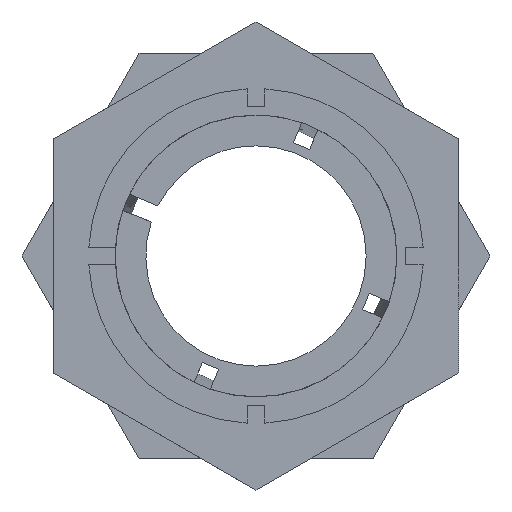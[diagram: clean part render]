
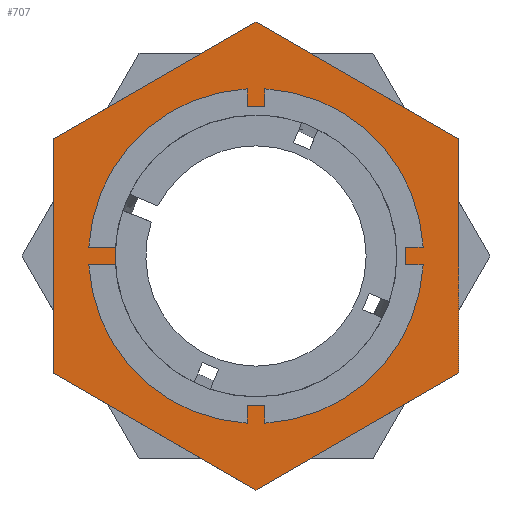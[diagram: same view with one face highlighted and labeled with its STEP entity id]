
A CAD part, left-side view. The second image highlights one B-rep face of the part: STEP entity #707.
In plain terms, the highlighted planar face has unit normal (-1, 0, 0).
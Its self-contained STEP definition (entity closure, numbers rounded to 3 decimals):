
#16 = DIRECTION ( 'NONE',  ( 0., 0., 1. ) ) ;
#17 = DIRECTION ( 'NONE',  ( -1., 0., 0. ) ) ;
#18 = CARTESIAN_POINT ( 'NONE',  ( 20.52, 0., 0. ) ) ;
#23 = CARTESIAN_POINT ( 'NONE',  ( 20.52, 0., 0. ) ) ;
#49 = DIRECTION ( 'NONE',  ( 0., -0.866, -0.5 ) ) ;
#71 = CARTESIAN_POINT ( 'NONE',  ( 20.52, 0., -26.558 ) ) ;
#181 = FACE_BOUND ( 'NONE', #1412, .T. ) ;
#186 = FACE_OUTER_BOUND ( 'NONE', #1385, .T. ) ;
#320 = VECTOR ( 'NONE', #49, 1000. ) ;
#331 = LINE ( 'NONE', #2377, #368 ) ;
#340 = LINE ( 'NONE', #71, #320 ) ;
#366 = CIRCLE ( 'NONE', #2284, 15.501 ) ;
#368 = VECTOR ( 'NONE', #2385, 1000. ) ;
#370 = LINE ( 'NONE', #2424, #371 ) ;
#371 = VECTOR ( 'NONE', #2365, 1000. ) ;
#372 = LINE ( 'NONE', #2421, #373 ) ;
#373 = VECTOR ( 'NONE', #2375, 1000. ) ;
#374 = LINE ( 'NONE', #2363, #375 ) ;
#375 = VECTOR ( 'NONE', #2381, 1000. ) ;
#378 = CIRCLE ( 'NONE', #2295, 15.501 ) ;
#379 = LINE ( 'NONE', #2392, #380 ) ;
#380 = VECTOR ( 'NONE', #2407, 1000. ) ;
#707 = ADVANCED_FACE ( 'NONE', ( #181, #186 ), #1664, .F. ) ;
#753 = ORIENTED_EDGE ( 'NONE', *, *, #1045, .T. ) ;
#770 = ORIENTED_EDGE ( 'NONE', *, *, #1044, .F. ) ;
#775 = ORIENTED_EDGE ( 'NONE', *, *, #1046, .T. ) ;
#794 = ORIENTED_EDGE ( 'NONE', *, *, #1043, .T. ) ;
#796 = ORIENTED_EDGE ( 'NONE', *, *, #1025, .T. ) ;
#804 = ORIENTED_EDGE ( 'NONE', *, *, #1041, .T. ) ;
#833 = ORIENTED_EDGE ( 'NONE', *, *, #1042, .T. ) ;
#854 = ORIENTED_EDGE ( 'NONE', *, *, #1037, .F. ) ;
#1025 = EDGE_CURVE ( 'NONE', #1812, #1810, #340, .T. ) ;
#1037 = EDGE_CURVE ( 'NONE', #1823, #1822, #366, .T. ) ;
#1041 = EDGE_CURVE ( 'NONE', #1816, #1812, #370, .T. ) ;
#1042 = EDGE_CURVE ( 'NONE', #1809, #1808, #372, .T. ) ;
#1043 = EDGE_CURVE ( 'NONE', #1810, #1809, #374, .T. ) ;
#1044 = EDGE_CURVE ( 'NONE', #1822, #1823, #378, .T. ) ;
#1045 = EDGE_CURVE ( 'NONE', #1817, #1816, #331, .T. ) ;
#1046 = EDGE_CURVE ( 'NONE', #1808, #1817, #379, .T. ) ;
#1070 = AXIS2_PLACEMENT_3D ( 'NONE', #1667, #1662, #1684 ) ;
#1385 = EDGE_LOOP ( 'NONE', ( #753, #804, #796, #794, #833, #775 ) ) ;
#1412 = EDGE_LOOP ( 'NONE', ( #770, #854 ) ) ;
#1662 = DIRECTION ( 'NONE',  ( 1., 0., 0. ) ) ;
#1664 = PLANE ( 'NONE',  #1070 ) ;
#1667 = CARTESIAN_POINT ( 'NONE',  ( 20.52, 50., 0. ) ) ;
#1684 = DIRECTION ( 'NONE',  ( 0., 0., -1. ) ) ;
#1808 = VERTEX_POINT ( 'NONE', #2169 ) ;
#1809 = VERTEX_POINT ( 'NONE', #2170 ) ;
#1810 = VERTEX_POINT ( 'NONE', #2171 ) ;
#1812 = VERTEX_POINT ( 'NONE', #2172 ) ;
#1816 = VERTEX_POINT ( 'NONE', #2173 ) ;
#1817 = VERTEX_POINT ( 'NONE', #2174 ) ;
#1822 = VERTEX_POINT ( 'NONE', #2175 ) ;
#1823 = VERTEX_POINT ( 'NONE', #2176 ) ;
#2169 = CARTESIAN_POINT ( 'NONE',  ( 20.52, -23., 13.279 ) ) ;
#2170 = CARTESIAN_POINT ( 'NONE',  ( 20.52, -23., -13.279 ) ) ;
#2171 = CARTESIAN_POINT ( 'NONE',  ( 20.52, 0., -26.558 ) ) ;
#2172 = CARTESIAN_POINT ( 'NONE',  ( 20.52, 23., -13.279 ) ) ;
#2173 = CARTESIAN_POINT ( 'NONE',  ( 20.52, 23., 13.279 ) ) ;
#2174 = CARTESIAN_POINT ( 'NONE',  ( 20.52, 0., 26.558 ) ) ;
#2175 = CARTESIAN_POINT ( 'NONE',  ( 20.52, 0., 15.501 ) ) ;
#2176 = CARTESIAN_POINT ( 'NONE',  ( 20.52, 0., -15.501 ) ) ;
#2284 = AXIS2_PLACEMENT_3D ( 'NONE', #23, #17, #16 ) ;
#2295 = AXIS2_PLACEMENT_3D ( 'NONE', #18, #2400, #2417 ) ;
#2363 = CARTESIAN_POINT ( 'NONE',  ( 20.52, -23., -13.279 ) ) ;
#2365 = DIRECTION ( 'NONE',  ( 0., 0., -1. ) ) ;
#2375 = DIRECTION ( 'NONE',  ( 0., 0., 1. ) ) ;
#2377 = CARTESIAN_POINT ( 'NONE',  ( 20.52, 23., 13.279 ) ) ;
#2381 = DIRECTION ( 'NONE',  ( 0., -0.866, 0.5 ) ) ;
#2385 = DIRECTION ( 'NONE',  ( 0., 0.866, -0.5 ) ) ;
#2392 = CARTESIAN_POINT ( 'NONE',  ( 20.52, 0., 26.558 ) ) ;
#2400 = DIRECTION ( 'NONE',  ( -1., 0., 0. ) ) ;
#2407 = DIRECTION ( 'NONE',  ( 0., 0.866, 0.5 ) ) ;
#2417 = DIRECTION ( 'NONE',  ( 0., 0., 1. ) ) ;
#2421 = CARTESIAN_POINT ( 'NONE',  ( 20.52, -23., 13.279 ) ) ;
#2424 = CARTESIAN_POINT ( 'NONE',  ( 20.52, 23., -13.279 ) ) ;
